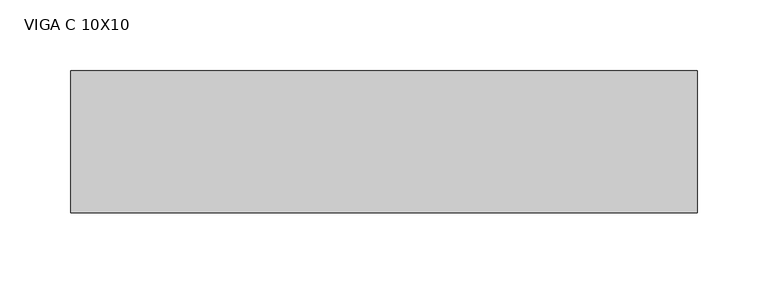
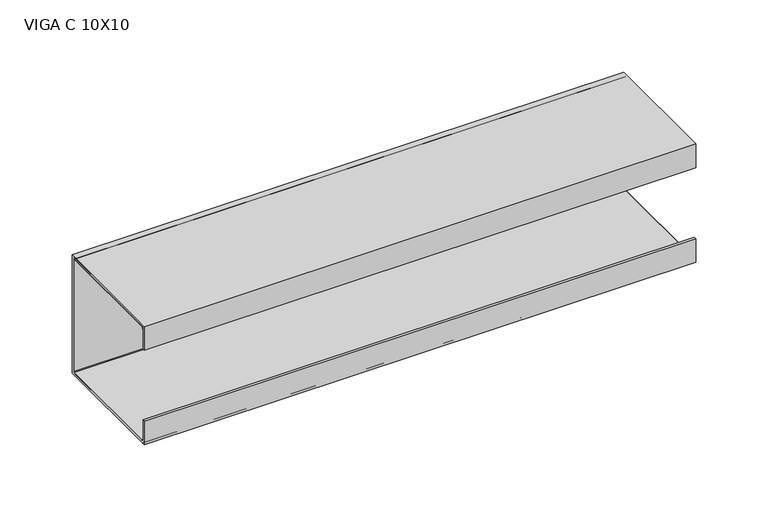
"""IFC4 building model written with IfcOpenShell, lengths in millimetres: beam geometry, VIGA PERFIL C AÇO : VIGA C 10X10."""

from ifc_helpers import new_model, si_unit, point, frame, frame_2d, origin, place, context, project, spatial, polyline, circle_curve, trimmed, segment, composite_curve, outline, extrude, source, transform, mapped, element, save


def viga_c_10x10_807e0190(model_context):
    return source(origin(), model_context, "Body", "SweptSolid", [
        extrude(outline(polyline([(9.2, -50.0), (-90.8, -50.0), (-90.8, -30.0), (-88.9, -30.0), (-88.9, -48.1), (7.3, -48.1), (7.3, 48.1), (-88.9, 48.1), (-88.9, 30.0), (-90.8, 30.0), (-90.8, 50.0), (9.2, 50.0), (9.2, -50.0)])), frame((-228.0, 0.0, 0.0), z_axis=(1.0, 0.0, 0.0), x_axis=(0.0, 1.0, 0.0)), (0.0, 0.0, 1.0), 441.0),
        extrude(outline(composite_curve([segment(trimmed(circle_curve(frame_2d((5.4, -46.2)), 3.8), [point((9.2, -46.2))], [point((5.4, -50.0))], False, "CARTESIAN"), True, "CONTINUOUS"), segment(polyline([(5.4, -50.0), (-87.0, -50.0)]), True, "CONTINUOUS"), segment(trimmed(circle_curve(frame_2d((-87.0, -46.2)), 3.8), [point((-87.0, -50.0))], [point((-90.8, -46.2))], False, "CARTESIAN"), True, "CONTINUOUS"), segment(polyline([(-90.8, -46.2), (-90.8, -30.0), (-88.9, -30.0), (-88.9, -46.2)]), True, "CONTINUOUS"), segment(trimmed(circle_curve(frame_2d((-87.0, -46.2)), 1.9), [point((-88.9, -46.2))], [point((-87.0, -48.1))], True, "CARTESIAN"), True, "CONTINUOUS"), segment(polyline([(-87.0, -48.1), (5.4, -48.1)]), True, "CONTINUOUS"), segment(trimmed(circle_curve(frame_2d((5.4, -46.2)), 1.9), [point((5.4, -48.1))], [point((7.3, -46.2))], True, "CARTESIAN"), True, "CONTINUOUS"), segment(polyline([(7.3, -46.2), (7.3, 46.2)]), True, "CONTINUOUS"), segment(trimmed(circle_curve(frame_2d((5.4, 46.2)), 1.9), [point((7.3, 46.2))], [point((5.4, 48.1))], True, "CARTESIAN"), True, "CONTINUOUS"), segment(polyline([(5.4, 48.1), (-87.0, 48.1)]), True, "CONTINUOUS"), segment(trimmed(circle_curve(frame_2d((-87.0, 46.2)), 1.9), [point((-87.0, 48.1))], [point((-88.9, 46.2))], True, "CARTESIAN"), True, "CONTINUOUS"), segment(polyline([(-88.9, 46.2), (-88.9, 30.0), (-90.8, 30.0), (-90.8, 46.2)]), True, "CONTINUOUS"), segment(trimmed(circle_curve(frame_2d((-87.0, 46.2)), 3.8), [point((-90.8, 46.2))], [point((-87.0, 50.0))], False, "CARTESIAN"), True, "CONTINUOUS"), segment(polyline([(-87.0, 50.0), (5.4, 50.0)]), True, "CONTINUOUS"), segment(trimmed(circle_curve(frame_2d((5.4, 46.2)), 3.8), [point((5.4, 50.0))], [point((9.2, 46.2))], False, "CARTESIAN"), True, "CONTINUOUS"), segment(polyline([(9.2, 46.2), (9.2, -46.2)]), True, "CONTINUOUS")], self_intersect=False)), frame((-228.0, 0.0, 0.0), z_axis=(1.0, 0.0, 0.0), x_axis=(0.0, 1.0, 0.0)), (0.0, 0.0, 1.0), 441.0),
    ])


if __name__ == "__main__":
    model = new_model("IFC4")
    model_context = context("Model", 3, world=origin())
    ifc_project = project(units=[si_unit("LENGTHUNIT", "METRE", prefix="MILLI")], contexts=[model_context])
    site = spatial("IfcSite", under=ifc_project)
    building = spatial("IfcBuilding", under=site)
    placement = place(None, origin())
    viga_c_10x10_shape = viga_c_10x10_807e0190(model_context)
    element("IfcBeam", 1, ObjectType="VIGA PERFIL C AÇO : VIGA C 10X10", at=placement, inside=building, context=model_context, shape_type="MappedRepresentation", body=[
        mapped(viga_c_10x10_shape, transform((0.0, 0.0, 0.0), x_axis=(1.0, 0.0, 0.0), y_axis=(0.0, 1.0, 0.0), z_axis=(0.0, 0.0, 1.0))),
    ])
    save(model, "model.ifc")
